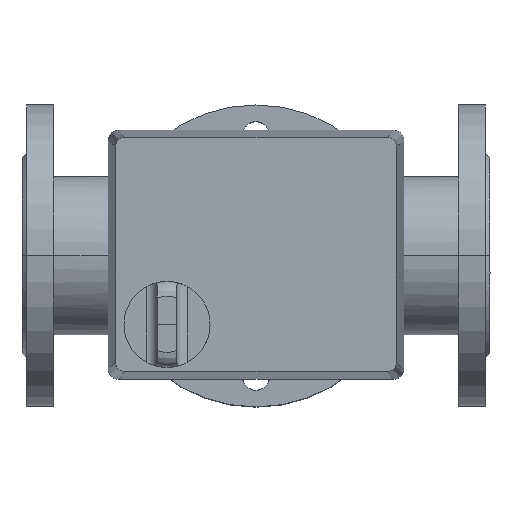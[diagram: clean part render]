
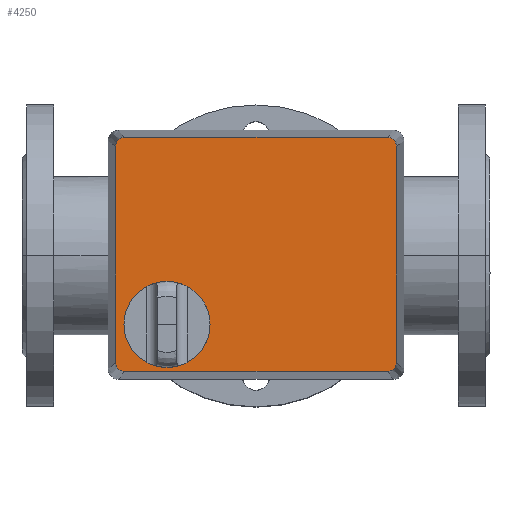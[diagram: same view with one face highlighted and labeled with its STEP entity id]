
A CAD part, top view. The second image highlights one B-rep face of the part: STEP entity #4250.
In plain terms, the highlighted planar face has unit normal (0, 0, 1).
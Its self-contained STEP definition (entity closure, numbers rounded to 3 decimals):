
#353=LINE('',#7324,#595);
#354=LINE('',#7328,#596);
#355=LINE('',#7332,#597);
#356=LINE('',#7336,#598);
#595=VECTOR('',#5927,304.8);
#596=VECTOR('',#5930,304.8);
#597=VECTOR('',#5933,304.8);
#598=VECTOR('',#5936,304.8);
#1056=FACE_OUTER_BOUND('',#1363,.T.);
#1363=EDGE_LOOP('',(#3537,#3538,#3539,#3540,#3541,#3542,#3543,#3544));
#1665=CIRCLE('',#4751,6.);
#1666=CIRCLE('',#4752,6.);
#1667=CIRCLE('',#4753,6.);
#1668=CIRCLE('',#4754,6.);
#2026=VERTEX_POINT('',#7322);
#2027=VERTEX_POINT('',#7323);
#2028=VERTEX_POINT('',#7325);
#2029=VERTEX_POINT('',#7327);
#2030=VERTEX_POINT('',#7329);
#2031=VERTEX_POINT('',#7331);
#2032=VERTEX_POINT('',#7333);
#2033=VERTEX_POINT('',#7335);
#2544=EDGE_CURVE('',#2026,#2027,#353,.T.);
#2545=EDGE_CURVE('',#2027,#2028,#1665,.T.);
#2546=EDGE_CURVE('',#2028,#2029,#354,.T.);
#2547=EDGE_CURVE('',#2029,#2030,#1666,.T.);
#2548=EDGE_CURVE('',#2030,#2031,#355,.T.);
#2549=EDGE_CURVE('',#2031,#2032,#1667,.T.);
#2550=EDGE_CURVE('',#2032,#2033,#356,.T.);
#2551=EDGE_CURVE('',#2033,#2026,#1668,.T.);
#3537=ORIENTED_EDGE('',*,*,#2544,.T.);
#3538=ORIENTED_EDGE('',*,*,#2545,.T.);
#3539=ORIENTED_EDGE('',*,*,#2546,.T.);
#3540=ORIENTED_EDGE('',*,*,#2547,.T.);
#3541=ORIENTED_EDGE('',*,*,#2548,.T.);
#3542=ORIENTED_EDGE('',*,*,#2549,.T.);
#3543=ORIENTED_EDGE('',*,*,#2550,.T.);
#3544=ORIENTED_EDGE('',*,*,#2551,.T.);
#3842=PLANE('',#4750);
#4250=ADVANCED_FACE('',(#1056),#3842,.T.);
#4750=AXIS2_PLACEMENT_3D('',#7321,#5925,#5926);
#4751=AXIS2_PLACEMENT_3D('',#7326,#5928,#5929);
#4752=AXIS2_PLACEMENT_3D('',#7330,#5931,#5932);
#4753=AXIS2_PLACEMENT_3D('',#7334,#5934,#5935);
#4754=AXIS2_PLACEMENT_3D('',#7337,#5937,#5938);
#5925=DIRECTION('center_axis',(0.,0.,1.));
#5926=DIRECTION('ref_axis',(0.,-1.,0.));
#5927=DIRECTION('',(0.,-1.,0.));
#5928=DIRECTION('center_axis',(0.,0.,1.));
#5929=DIRECTION('ref_axis',(1.,0.,0.));
#5930=DIRECTION('',(1.,0.,0.));
#5931=DIRECTION('center_axis',(0.,0.,1.));
#5932=DIRECTION('ref_axis',(1.,0.,0.));
#5933=DIRECTION('',(0.,1.,0.));
#5934=DIRECTION('center_axis',(0.,0.,1.));
#5935=DIRECTION('ref_axis',(1.,0.,0.));
#5936=DIRECTION('',(-1.,0.,0.));
#5937=DIRECTION('center_axis',(0.,0.,1.));
#5938=DIRECTION('ref_axis',(1.,0.,0.));
#7321=CARTESIAN_POINT('Origin',(0.,0.,
340.));
#7322=CARTESIAN_POINT('',(-77.5,87.,340.));
#7323=CARTESIAN_POINT('',(-77.5,-87.,340.));
#7324=CARTESIAN_POINT('',(-77.5,-87.,340.));
#7325=CARTESIAN_POINT('',(-71.5,-93.,340.));
#7326=CARTESIAN_POINT('Origin',(-71.5,-87.,340.));
#7327=CARTESIAN_POINT('',(71.5,-93.,340.));
#7328=CARTESIAN_POINT('',(71.5,-93.,340.));
#7329=CARTESIAN_POINT('',(77.5,-87.,340.));
#7330=CARTESIAN_POINT('Origin',(71.5,-87.,340.));
#7331=CARTESIAN_POINT('',(77.5,87.,340.));
#7332=CARTESIAN_POINT('',(77.5,87.,340.));
#7333=CARTESIAN_POINT('',(71.5,93.,340.));
#7334=CARTESIAN_POINT('Origin',(71.5,87.,340.));
#7335=CARTESIAN_POINT('',(-71.5,93.,340.));
#7336=CARTESIAN_POINT('',(-71.5,93.,340.));
#7337=CARTESIAN_POINT('Origin',(-71.5,87.,340.));
